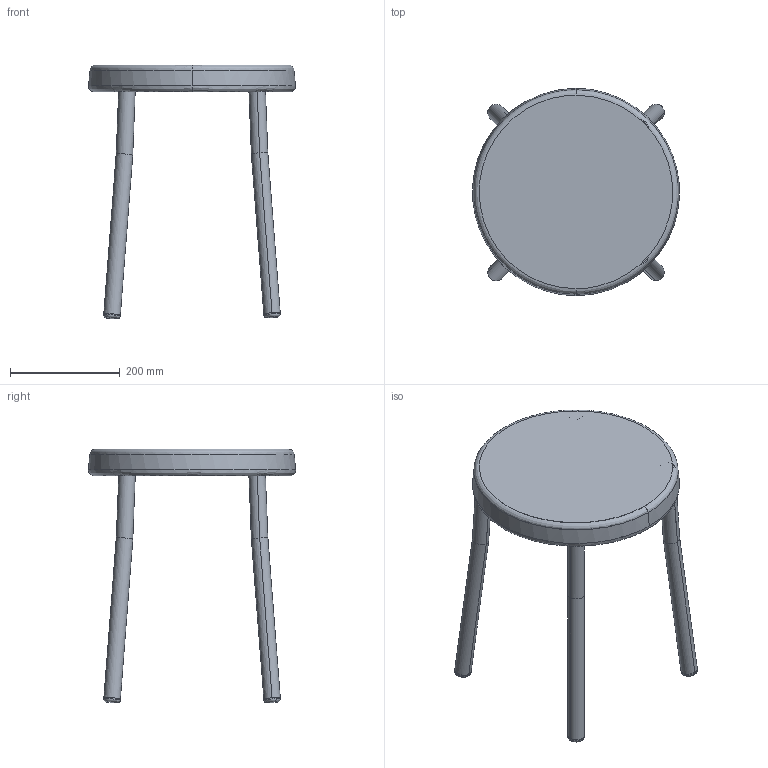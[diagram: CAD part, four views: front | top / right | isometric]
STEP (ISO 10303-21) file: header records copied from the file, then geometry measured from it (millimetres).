
FILE_DESCRIPTION(/* description */ (''),/* implementation_level */ '2;1');
FILE_NAME(/* name */ 'FRAMA_Tasca-Stool-3D',/* time_stamp */ '2025-10-23T16:55:24+02:00',/* author */ (''),/* organization */ (''),/* preprocessor_version */ 'ST-DEVELOPER v16.5',/* originating_system */ 'Rhino 7.38',/* authorisation */ '');
FILE_SCHEMA (('CONFIG_CONTROL_DESIGN'));
Length unit declared in the file: millimetre
Products named in the file (1): Document
Bounding box: 376.3 x 376.6 x 461.38 mm (x, y, z)
Volume: 771462.1 mm3; surface area: 711988.4 mm2
Topology: 11 solids, 11 shells, 138 faces, 294 edges, 185 vertices
Faces by surface type: plane 54, bspline 44, cylinder 40
Full cylindrical faces by diameter (mm): 26 x1
Entity records: 5320 total; most frequent: CARTESIAN_POINT 3280, ORIENTED_EDGE 588, EDGE_CURVE 294, VERTEX_POINT 186, EDGE_LOOP 154, ADVANCED_FACE 138, FACE_OUTER_BOUND 138, B_SPLINE_CURVE_WITH_KNOTS 132
